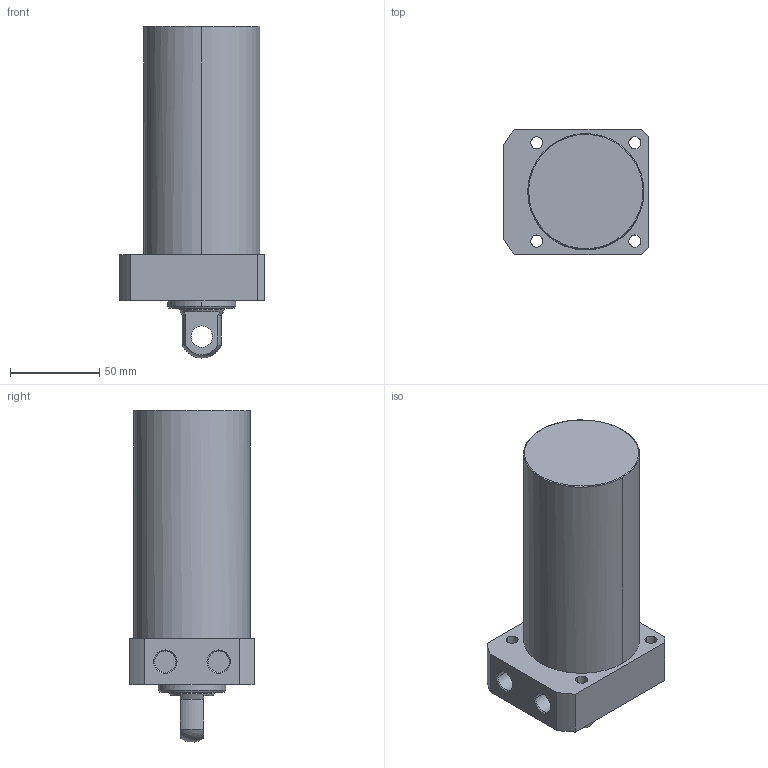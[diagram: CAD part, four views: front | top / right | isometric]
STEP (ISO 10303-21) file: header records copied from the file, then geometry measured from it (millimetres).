
FILE_DESCRIPTION((' '),'2;1');
FILE_NAME( 'TLLR-065CP-095.STEP.stp', '2025-10-24T16:35:03', (' '), ('--- Datakit www.datakit.com---'), ' Datakit CrossCadWare V2024.1 Dec 21 2023', 'Mastercam 2025', ' ');
FILE_SCHEMA(('AUTOMOTIVE_DESIGN { 1 0 10303 214 1 1 1 1 }'));
Length unit declared in the file: millimetre
Products named in the file (1): TLLR-065CP-095
Bounding box: 81 x 70 x 185.92 mm (x, y, z)
Volume: 572374.1 mm3; surface area: 50502.1 mm2
Topology: 1 solids, 1 shells, 57 faces, 164 edges, 116 vertices
Faces by surface type: cylinder 28, plane 18, cone 8, torus 2, sphere 1
Entity records: 2006 total; most frequent: DIRECTION 378, CARTESIAN_POINT 350, ORIENTED_EDGE 328, EDGE_CURVE 164, AXIS2_PLACEMENT_3D 160, VERTEX_POINT 116, CIRCLE 102, EDGE_LOOP 74
